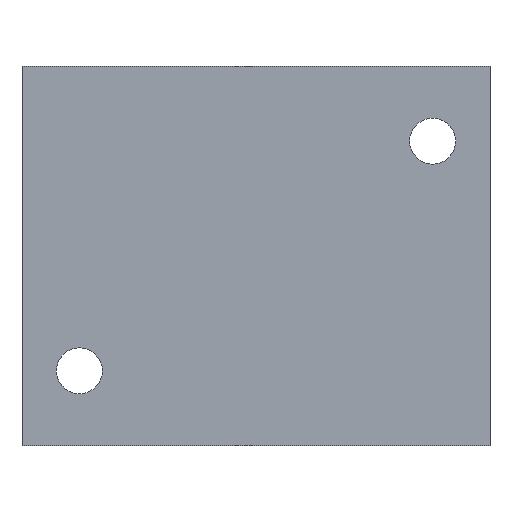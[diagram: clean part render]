
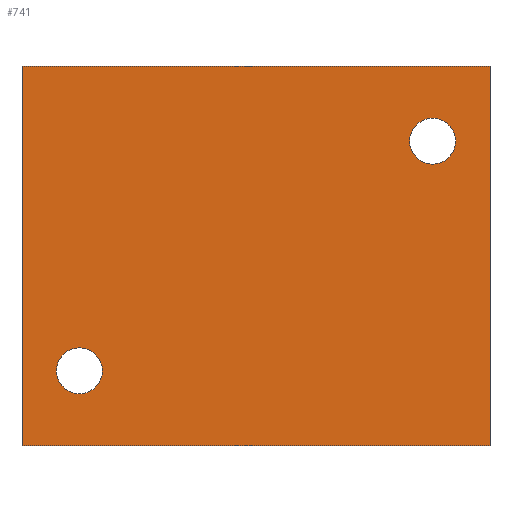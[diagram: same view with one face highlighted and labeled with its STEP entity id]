
A CAD part, front view. The second image highlights one B-rep face of the part: STEP entity #741.
In plain terms, the highlighted planar face has unit normal (0, -1, 0).
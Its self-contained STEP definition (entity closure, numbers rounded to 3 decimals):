
#33 = DIRECTION ( 'NONE',  ( 0., 0., -1. ) ) ;
#70 = ORIENTED_EDGE ( 'NONE', *, *, #174, .F. ) ;
#86 = VECTOR ( 'NONE', #1443, 1000. ) ;
#114 = AXIS2_PLACEMENT_3D ( 'NONE', #932, #1400, #835 ) ;
#125 = EDGE_CURVE ( 'NONE', #1467, #268, #1499, .T. ) ;
#139 = FACE_OUTER_BOUND ( 'NONE', #361, .T. ) ;
#166 = DIRECTION ( 'NONE',  ( 1., 0., 0. ) ) ;
#174 = EDGE_CURVE ( 'NONE', #958, #1108, #757, .T. ) ;
#189 = VECTOR ( 'NONE', #310, 1000. ) ;
#191 = DIRECTION ( 'NONE',  ( 0., -1., 0. ) ) ;
#247 = FACE_BOUND ( 'NONE', #1037, .T. ) ;
#249 = CARTESIAN_POINT ( 'NONE',  ( 20., -21., 13. ) ) ;
#259 = VERTEX_POINT ( 'NONE', #1417 ) ;
#260 = CARTESIAN_POINT ( 'NONE',  ( -26.5, -21., 21.5 ) ) ;
#265 = DIRECTION ( 'NONE',  ( 0., -1., 0. ) ) ;
#268 = VERTEX_POINT ( 'NONE', #1410 ) ;
#279 = EDGE_CURVE ( 'NONE', #1530, #259, #828, .T. ) ;
#280 = VECTOR ( 'NONE', #965, 1000. ) ;
#298 = EDGE_CURVE ( 'NONE', #1467, #1530, #1337, .T. ) ;
#310 = DIRECTION ( 'NONE',  ( 0., 0., -1. ) ) ;
#329 = CARTESIAN_POINT ( 'NONE',  ( -26.5, -21., 21.5 ) ) ;
#333 = CARTESIAN_POINT ( 'NONE',  ( -26.5, -21., 21.5 ) ) ;
#361 = EDGE_LOOP ( 'NONE', ( #1153, #647, #1261, #600 ) ) ;
#384 = EDGE_CURVE ( 'NONE', #1108, #958, #1243, .T. ) ;
#407 = EDGE_CURVE ( 'NONE', #687, #1298, #1344, .T. ) ;
#409 = DIRECTION ( 'NONE',  ( 0., 0., -1. ) ) ;
#447 = EDGE_CURVE ( 'NONE', #268, #259, #899, .T. ) ;
#453 = ORIENTED_EDGE ( 'NONE', *, *, #384, .F. ) ;
#489 = CARTESIAN_POINT ( 'NONE',  ( -26.5, -21., 21.5 ) ) ;
#505 = FACE_BOUND ( 'NONE', #628, .T. ) ;
#600 = ORIENTED_EDGE ( 'NONE', *, *, #125, .T. ) ;
#615 = DIRECTION ( 'NONE',  ( 0., 1., 0. ) ) ;
#628 = EDGE_LOOP ( 'NONE', ( #1332, #1460 ) ) ;
#647 = ORIENTED_EDGE ( 'NONE', *, *, #279, .F. ) ;
#659 = CARTESIAN_POINT ( 'NONE',  ( -26.5, -21., -21.5 ) ) ;
#687 = VERTEX_POINT ( 'NONE', #1334 ) ;
#698 = CARTESIAN_POINT ( 'NONE',  ( 26.5, -21., 21.5 ) ) ;
#741 = ADVANCED_FACE ( 'NONE', ( #505, #247, #139 ), #1439, .F. ) ;
#757 = CIRCLE ( 'NONE', #114, 2.6 ) ;
#828 = LINE ( 'NONE', #1098, #86 ) ;
#835 = DIRECTION ( 'NONE',  ( 0., 0., -1. ) ) ;
#848 = CARTESIAN_POINT ( 'NONE',  ( -20., -21., -13. ) ) ;
#874 = CARTESIAN_POINT ( 'NONE',  ( -20., -21., -15.6 ) ) ;
#899 = LINE ( 'NONE', #659, #972 ) ;
#908 = CIRCLE ( 'NONE', #1434, 2.6 ) ;
#932 = CARTESIAN_POINT ( 'NONE',  ( -20., -21., -13. ) ) ;
#958 = VERTEX_POINT ( 'NONE', #1424 ) ;
#965 = DIRECTION ( 'NONE',  ( 1., 0., 0. ) ) ;
#972 = VECTOR ( 'NONE', #166, 1000. ) ;
#977 = DIRECTION ( 'NONE',  ( 0., 0., 1. ) ) ;
#999 = CARTESIAN_POINT ( 'NONE',  ( 20., -21., 15.6 ) ) ;
#1008 = DIRECTION ( 'NONE',  ( 0., -1., 0. ) ) ;
#1012 = EDGE_CURVE ( 'NONE', #1298, #687, #908, .T. ) ;
#1037 = EDGE_LOOP ( 'NONE', ( #453, #70 ) ) ;
#1098 = CARTESIAN_POINT ( 'NONE',  ( 26.5, -21., 21.5 ) ) ;
#1108 = VERTEX_POINT ( 'NONE', #874 ) ;
#1153 = ORIENTED_EDGE ( 'NONE', *, *, #447, .T. ) ;
#1232 = DIRECTION ( 'NONE',  ( 0., 0., -1. ) ) ;
#1243 = CIRCLE ( 'NONE', #1445, 2.6 ) ;
#1261 = ORIENTED_EDGE ( 'NONE', *, *, #298, .F. ) ;
#1298 = VERTEX_POINT ( 'NONE', #999 ) ;
#1332 = ORIENTED_EDGE ( 'NONE', *, *, #407, .F. ) ;
#1334 = CARTESIAN_POINT ( 'NONE',  ( 20., -21., 10.4 ) ) ;
#1337 = LINE ( 'NONE', #260, #280 ) ;
#1344 = CIRCLE ( 'NONE', #1448, 2.6 ) ;
#1400 = DIRECTION ( 'NONE',  ( 0., -1., 0. ) ) ;
#1406 = AXIS2_PLACEMENT_3D ( 'NONE', #489, #615, #977 ) ;
#1410 = CARTESIAN_POINT ( 'NONE',  ( -26.5, -21., -21.5 ) ) ;
#1417 = CARTESIAN_POINT ( 'NONE',  ( 26.5, -21., -21.5 ) ) ;
#1424 = CARTESIAN_POINT ( 'NONE',  ( -20., -21., -10.4 ) ) ;
#1434 = AXIS2_PLACEMENT_3D ( 'NONE', #249, #265, #33 ) ;
#1439 = PLANE ( 'NONE',  #1406 ) ;
#1443 = DIRECTION ( 'NONE',  ( 0., 0., -1. ) ) ;
#1445 = AXIS2_PLACEMENT_3D ( 'NONE', #848, #191, #1232 ) ;
#1448 = AXIS2_PLACEMENT_3D ( 'NONE', #1474, #1008, #409 ) ;
#1460 = ORIENTED_EDGE ( 'NONE', *, *, #1012, .F. ) ;
#1467 = VERTEX_POINT ( 'NONE', #333 ) ;
#1474 = CARTESIAN_POINT ( 'NONE',  ( 20., -21., 13. ) ) ;
#1499 = LINE ( 'NONE', #329, #189 ) ;
#1530 = VERTEX_POINT ( 'NONE', #698 ) ;
